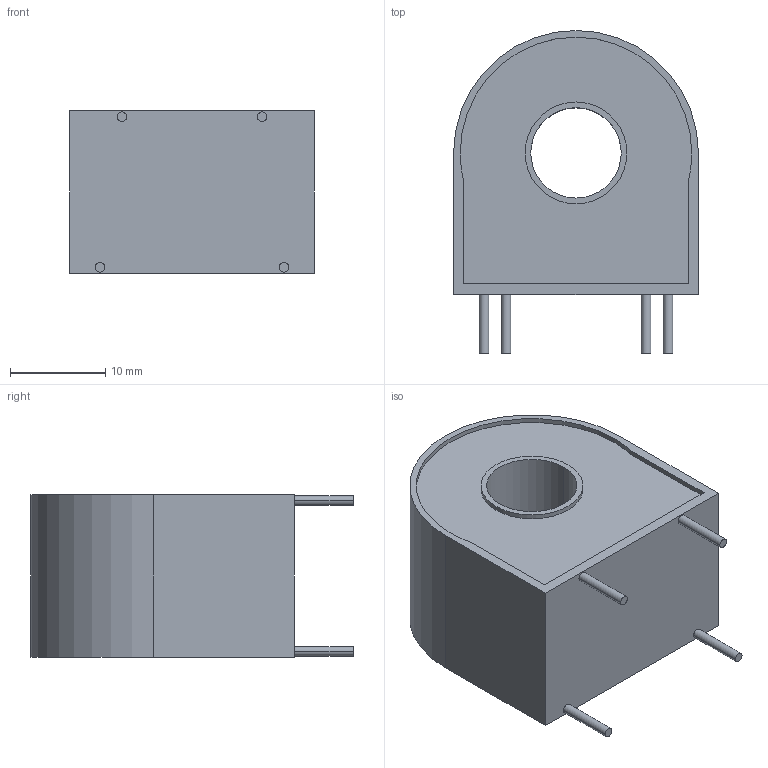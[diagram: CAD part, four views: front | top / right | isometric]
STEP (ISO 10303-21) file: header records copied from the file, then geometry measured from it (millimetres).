
FILE_DESCRIPTION (( 'STEP AP214' ), '1' );
FILE_NAME ('CT-1002-102.STEP', '2020-08-06T20:51:52', ( '' ), ( '' ), 'SwSTEP 2.0', 'SolidWorks 2015', '' );
FILE_SCHEMA (( 'AUTOMOTIVE_DESIGN' ));
Length unit declared in the file: millimetre
Products named in the file (1): CT-1002-102
Bounding box: 25.75 x 33.95 x 17.05 mm (x, y, z)
Volume: 9543.7 mm3; surface area: 3429.6 mm2
Topology: 1 solids, 1 shells, 30 faces, 66 edges, 44 vertices
Faces by surface type: cylinder 16, plane 14
Entity records: 1111 total; most frequent: DIRECTION 160, CARTESIAN_POINT 141, ORIENTED_EDGE 132, EDGE_CURVE 66, AXIS2_PLACEMENT_3D 63, VERTEX_POINT 44, EDGE_LOOP 38, LINE 34
